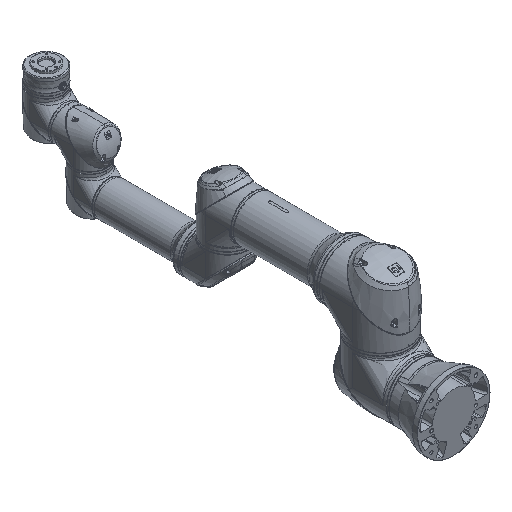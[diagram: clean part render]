
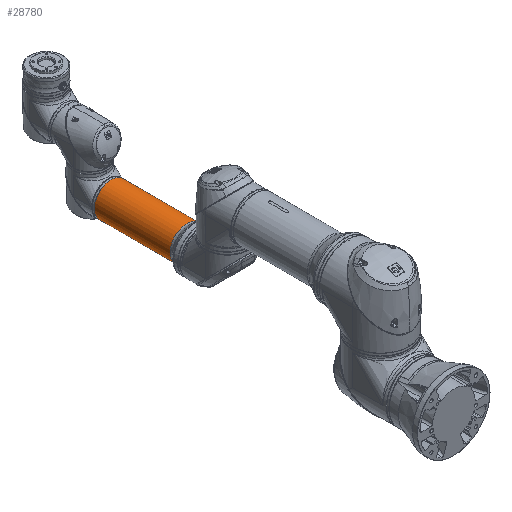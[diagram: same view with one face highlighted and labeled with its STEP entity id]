
A CAD part, isometric view. The second image highlights one B-rep face of the part: STEP entity #28780.
In plain terms, the highlighted cylindrical face has radius 45 mm (diameter 90 mm), a full revolution.
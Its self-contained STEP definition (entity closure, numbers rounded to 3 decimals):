
#2862=CYLINDRICAL_SURFACE('',#31107,45.);
#3928=LINE('',#176694,#5248);
#5248=VECTOR('',#35537,45.);
#8671=FACE_OUTER_BOUND('',#10491,.T.);
#10491=EDGE_LOOP('',(#24829,#24830,#24831,#24832));
#11587=CIRCLE('',#31106,45.);
#11588=CIRCLE('',#31108,45.);
#13830=VERTEX_POINT('',#176689);
#13831=VERTEX_POINT('',#176693);
#17615=EDGE_CURVE('',#13830,#13830,#11587,.T.);
#17616=EDGE_CURVE('',#13830,#13831,#3928,.T.);
#17617=EDGE_CURVE('',#13831,#13831,#11588,.T.);
#24829=ORIENTED_EDGE('',*,*,#17615,.F.);
#24830=ORIENTED_EDGE('',*,*,#17616,.T.);
#24831=ORIENTED_EDGE('',*,*,#17617,.T.);
#24832=ORIENTED_EDGE('',*,*,#17616,.F.);
#28780=ADVANCED_FACE('',(#8671),#2862,.T.);
#31106=AXIS2_PLACEMENT_3D('',#176691,#35533,#35534);
#31107=AXIS2_PLACEMENT_3D('',#176692,#35535,#35536);
#31108=AXIS2_PLACEMENT_3D('',#176695,#35538,#35539);
#35533=DIRECTION('center_axis',(0.,-1.,0.));
#35534=DIRECTION('ref_axis',(-0.998,0.,-0.065));
#35535=DIRECTION('center_axis',(0.,-1.,0.));
#35536=DIRECTION('ref_axis',(-0.998,0.,-0.065));
#35537=DIRECTION('',(0.,1.,0.));
#35538=DIRECTION('center_axis',(0.,-1.,0.));
#35539=DIRECTION('ref_axis',(-0.998,0.,-0.065));
#176689=CARTESIAN_POINT('',(44.905,-457.787,-68.883));
#176691=CARTESIAN_POINT('Origin',(0.,-457.787,-71.8));
#176692=CARTESIAN_POINT('Origin',(0.,-267.307,-71.8));
#176693=CARTESIAN_POINT('',(44.905,-253.887,-68.883));
#176694=CARTESIAN_POINT('',(44.905,-267.307,-68.883));
#176695=CARTESIAN_POINT('Origin',(0.,-253.887,
-71.8));
